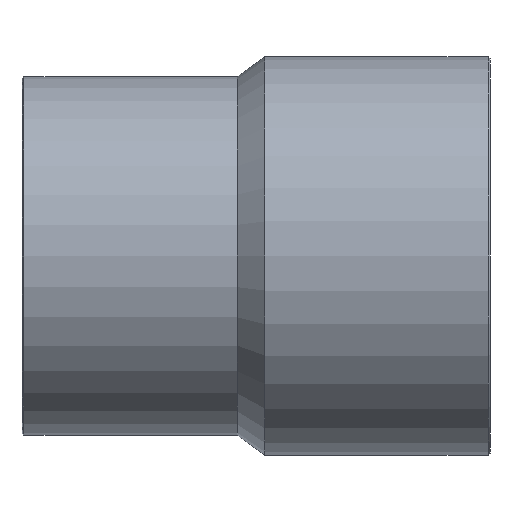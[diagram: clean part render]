
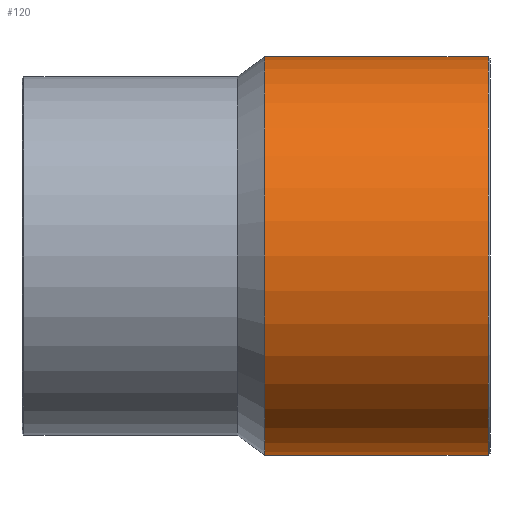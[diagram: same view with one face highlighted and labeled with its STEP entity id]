
A CAD part, front view. The second image highlights one B-rep face of the part: STEP entity #120.
In plain terms, the highlighted cylindrical face has radius 100 mm (diameter 200 mm), a full revolution.
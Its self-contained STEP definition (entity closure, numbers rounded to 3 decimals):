
#26=ORIENTED_EDGE('',*,*,#46,.T.);
#27=ORIENTED_EDGE('',*,*,#47,.F.);
#46=EDGE_CURVE('',#56,#56,#66,.T.);
#47=EDGE_CURVE('',#57,#57,#67,.T.);
#56=VERTEX_POINT('',#208);
#57=VERTEX_POINT('',#210);
#66=CIRCLE('',#144,100.);
#67=CIRCLE('',#145,100.);
#76=EDGE_LOOP('',(#26));
#77=EDGE_LOOP('',(#27));
#96=FACE_BOUND('',#76,.T.);
#97=FACE_BOUND('',#77,.T.);
#116=CYLINDRICAL_SURFACE('',#143,100.);
#120=ADVANCED_FACE('',(#96,#97),#116,.T.);
#143=AXIS2_PLACEMENT_3D('',#206,#165,#166);
#144=AXIS2_PLACEMENT_3D('',#207,#167,#168);
#145=AXIS2_PLACEMENT_3D('',#209,#169,#170);
#165=DIRECTION('',(-1.,0.,0.));
#166=DIRECTION('',(0.,0.,1.));
#167=DIRECTION('',(-1.,0.,0.));
#168=DIRECTION('',(0.,0.,1.));
#169=DIRECTION('',(-1.,0.,0.));
#170=DIRECTION('',(0.,0.,1.));
#206=CARTESIAN_POINT('',(-60.,0.,0.));
#207=CARTESIAN_POINT('',(119.,0.,0.));
#208=CARTESIAN_POINT('',(119.,0.,100.));
#209=CARTESIAN_POINT('',(7.,0.,0.));
#210=CARTESIAN_POINT('',(7.,0.,100.));
